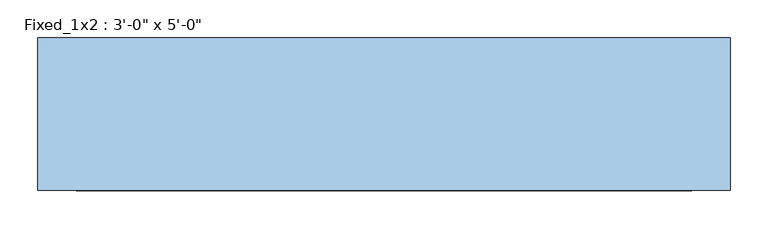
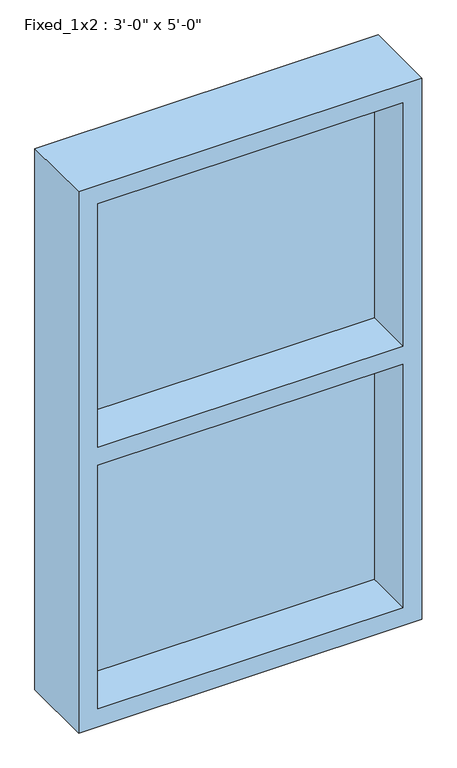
"""IFC4 building model written with IfcOpenShell, lengths in millimetres: window geometry."""

import ifcopenshell
import ifcopenshell.guid

model = None  # the IFC model being written
_history = None  # IfcOwnerHistory: only IFC2X3 demands one
_inside = {}  # id of a spatial element -> (the spatial element, [elements in it])
_under = {}  # id of a project, library or spatial element -> (it, [spatial elements below it])
_declared = {}  # id of a project -> (the project, [libraries it declares])
_typed = {}  # id of a type object -> (the type object, [elements of that type])
_made_of = {}  # id of a material, layer set ... -> (it, [elements and type objects made of it])


def new_model(schema):
    """Start an empty IFC model of exactly this schema.

    Asked for "IFC4X3", IfcOpenShell would pick the latest addendum, in which some entities
    have other attributes; the version numbers below select the first issue.
    IFC2X3 requires an IfcOwnerHistory on every rooted entity: one is made here for all.
    """
    global model, _history
    if schema == "IFC4X3":
        model = ifcopenshell.file(schema_version=(4, 3, 0, 0))
    else:
        model = ifcopenshell.file(schema=schema)
    _inside.clear()
    _under.clear()
    _declared.clear()
    _typed.clear()
    _made_of.clear()
    _history = None
    if model.schema == "IFC2X3":
        org = make("IfcOrganization", Name="unknown")
        user = make(
            "IfcPersonAndOrganization",
            ThePerson=make("IfcPerson", FamilyName="unknown"),
            TheOrganization=org,
        )
        app = make(
            "IfcApplication",
            ApplicationDeveloper=org,
            Version="unknown",
            ApplicationFullName="unknown",
            ApplicationIdentifier="unknown",
        )
        _history = make(
            "IfcOwnerHistory",
            OwningUser=user,
            OwningApplication=app,
            ChangeAction="ADDED",
            CreationDate=0,
        )
    return model


def make(cls, **values):
    """One entity of the class cls with the attributes given. An attribute that is None is left unset."""
    return model.create_entity(
        cls, **{name: value for name, value in values.items() if value is not None}
    )


def rooted(cls, **values):
    """An entity with a GlobalId (a new one), such as an element, a storey or a relation."""
    return make(cls, GlobalId=ifcopenshell.guid.new(), OwnerHistory=_history, **values)


def si_unit(unit_type, name, prefix=None):
    """IfcSIUnit, for example si_unit("LENGTHUNIT", "METRE", prefix="MILLI")."""
    return make("IfcSIUnit", UnitType=unit_type, Prefix=prefix, Name=name)


def assignment(units):
    """IfcUnitAssignment: the units of a project."""
    return None if units is None else make("IfcUnitAssignment", Units=units)


def point(xyz):
    """IfcCartesianPoint."""
    return None if xyz is None else make("IfcCartesianPoint", Coordinates=xyz)


def direction(xyz):
    """IfcDirection."""
    return None if xyz is None else make("IfcDirection", DirectionRatios=xyz)


def frame(location, z_axis=None, x_axis=None):
    """IfcAxis2Placement3D, a coordinate frame: its origin and axes. An axis left out is left unset."""
    return make(
        "IfcAxis2Placement3D",
        Location=point(location),
        Axis=direction(z_axis),
        RefDirection=direction(x_axis),
    )


def origin():
    """The frame at (0, 0, 0) with its axes left unset."""
    return frame((0.0, 0.0, 0.0))


def place(relative_to, where):
    """IfcLocalPlacement: puts the frame where relative to a parent placement (None: the world)."""
    return make(
        "IfcLocalPlacement", PlacementRelTo=relative_to, RelativePlacement=where
    )


def context(
    kind, dimensions, precision=None, world=None, true_north=None, identifier=None
):
    """IfcGeometricRepresentationContext, for example the 3D "Model" context."""
    return make(
        "IfcGeometricRepresentationContext",
        ContextIdentifier=identifier,
        ContextType=kind,
        CoordinateSpaceDimension=dimensions,
        Precision=precision,
        WorldCoordinateSystem=world,
        TrueNorth=true_north,
    )


def project(units=None, contexts=None):
    """IfcProject with its units and contexts."""
    return rooted(
        "IfcProject",
        Name="project",
        RepresentationContexts=contexts,
        UnitsInContext=assignment(units),
    )


def spatial(cls, under=None, at=None, **own):
    """A site, building, storey or space (cls), placed at a placement, below another one or the project."""
    s = rooted(cls, ObjectPlacement=at, **own)
    if under is not None:
        _under.setdefault(under.id(), (under, []))[1].append(s)
    return s


def polyline(points):
    """IfcPolyline through the points."""
    return make("IfcPolyline", Points=[point(p) for p in points])


def outline(outer, holes=None, kind="AREA"):
    """IfcArbitraryClosedProfileDef: a profile drawn as a closed curve; with holes, ...WithVoids."""
    if holes is None:
        return make("IfcArbitraryClosedProfileDef", ProfileType=kind, OuterCurve=outer)
    return make(
        "IfcArbitraryProfileDefWithVoids",
        ProfileType=kind,
        OuterCurve=outer,
        InnerCurves=holes,
    )


def extrude(swept, where, along, depth):
    """IfcExtrudedAreaSolid: the profile swept, set in the frame where, extruded along a direction by depth."""
    return make(
        "IfcExtrudedAreaSolid",
        SweptArea=swept,
        Position=where,
        ExtrudedDirection=direction(along),
        Depth=depth,
    )


def shape(context_of_items, identifier, shape_type, items):
    """IfcShapeRepresentation: the items that make up one representation, for example the "Body"."""
    return make(
        "IfcShapeRepresentation",
        ContextOfItems=context_of_items,
        RepresentationIdentifier=identifier,
        RepresentationType=shape_type,
        Items=items,
    )


def source(mapping_origin, context_of_items, identifier, shape_type, items):
    """IfcRepresentationMap: a shape defined once, which mapped items show again and again."""
    return make(
        "IfcRepresentationMap",
        MappingOrigin=mapping_origin,
        MappedRepresentation=shape(context_of_items, identifier, shape_type, items),
    )


def transform(
    local_origin,
    x_axis=None,
    y_axis=None,
    z_axis=None,
    scale=None,
    scale2=None,
    scale3=None,
    uniform=True,
):
    """IfcCartesianTransformationOperator3D, or its non-uniform kind. x_axis, y_axis, z_axis: its Axis1, 2, 3."""
    if uniform:
        return make(
            "IfcCartesianTransformationOperator3D",
            Axis1=direction(x_axis),
            Axis2=direction(y_axis),
            LocalOrigin=point(local_origin),
            Scale=scale,
            Axis3=direction(z_axis),
        )
    return make(
        "IfcCartesianTransformationOperator3DnonUniform",
        Axis1=direction(x_axis),
        Axis2=direction(y_axis),
        LocalOrigin=point(local_origin),
        Scale=scale,
        Axis3=direction(z_axis),
        Scale2=scale2,
        Scale3=scale3,
    )


def mapped(mapping_source, mapping_target):
    """IfcMappedItem: shows the shape of a source again, moved by a transform."""
    return make(
        "IfcMappedItem", MappingSource=mapping_source, MappingTarget=mapping_target
    )


def made_of(thing, what):
    """Note that an element or type object is made of a material, layer set ...; save() writes the relation."""
    if what is not None:
        _made_of.setdefault(what.id(), (what, []))[1].append(thing)
    return thing


def element(
    cls,
    number,
    at=None,
    inside=None,
    cuts=None,
    type_object=None,
    material=None,
    context=None,
    identifier="Body",
    shape_type=None,
    held_by="IfcProductDefinitionShape",
    body=None,
    shapes=None,
    **own,
):
    """One element of the class cls, such as IfcWall. Its Tag is "e" and its number.

    at: its placement. inside: the storey or other place that contains it. cuts: it is an
    opening in that element (IfcRelVoidsElement). A single representation is given by context,
    identifier, shape_type and body (its items); several are given by shapes. held_by: the class
    of the entity that holds the representations. save() writes the other relations.
    """
    e = rooted(cls, Tag="e%d" % number, ObjectPlacement=at, **own)
    if body is not None:
        shapes = [shape(context, identifier, shape_type, body)]
    if shapes is not None:
        e.Representation = make(held_by, Representations=shapes)
    if inside is not None:
        _inside.setdefault(inside.id(), (inside, []))[1].append(e)
    if cuts is not None:
        rooted(
            "IfcRelVoidsElement", RelatingBuildingElement=cuts, RelatedOpeningElement=e
        )
    if type_object is not None:
        _typed.setdefault(type_object.id(), (type_object, []))[1].append(e)
    return made_of(e, material)


def aggregate(whole, parts):
    """IfcRelAggregates: a whole, such as a stair, and the parts it consists of."""
    return rooted("IfcRelAggregates", RelatingObject=whole, RelatedObjects=parts)


def save(model, path):
    """Write the relations noted so far, then the file.

    IfcRelAggregates (storeys below a building ...), IfcRelContainedInSpatialStructure (elements
    in a storey), IfcRelDefinesByType, IfcRelAssociatesMaterial and IfcRelDeclares: one each for
    every whole, place, type object, material and project.
    """
    for whole, parts in _under.values():
        aggregate(whole, parts)
    for where, things in _inside.values():
        rooted(
            "IfcRelContainedInSpatialStructure",
            RelatedElements=things,
            RelatingStructure=where,
        )
    for kind, things in _typed.values():
        rooted("IfcRelDefinesByType", RelatedObjects=things, RelatingType=kind)
    for what, things in _made_of.values():
        rooted("IfcRelAssociatesMaterial", RelatedObjects=things, RelatingMaterial=what)
    for by, libraries in _declared.values():
        rooted("IfcRelDeclares", RelatingContext=by, RelatedDefinitions=libraries)
    model.write(path)


def window_53f5c2a4(model_context):
    return source(origin(), model_context, "Body", "SweptSolid", [
        extrude(outline(polyline([(-1320.8, 82.9137746), (-508.0, 82.9137746), (-508.0, 57.5137746), (-1320.8, 57.5137746), (-1320.8, 82.9137746)])), frame((0.0, 0.0, 1845.6367551), z_axis=(0.0, 0.0, 1.0), x_axis=(1.0, 0.0, 0.0)), (0.0, 0.0, 1.0), 685.8),
        extrude(outline(polyline([(-1320.8, 82.9137746), (-508.0, 82.9137746), (-508.0, 57.5137746), (-1320.8, 57.5137746), (-1320.8, 82.9137746)])), frame((0.0, 0.0, 1109.0367551), z_axis=(0.0, 0.0, 1.0), x_axis=(1.0, 0.0, 0.0)), (0.0, 0.0, 1.0), 685.8),
        extrude(outline(polyline([(2582.2367551, -1371.6), (1058.2367551, -1371.6), (1058.2367551, -457.2), (2582.2367551, -457.2), (2582.2367551, -1371.6)]), holes=[polyline([(2531.4367551, -1320.8), (2531.4367551, -508.0), (1845.6367551, -508.0), (1845.6367551, -1320.8), (2531.4367551, -1320.8)]), polyline([(1794.8367551, -1320.8), (1794.8367551, -508.0), (1109.0367551, -508.0), (1109.0367551, -1320.8), (1794.8367551, -1320.8)])]), frame((0.0, -74.2487254, 0.0), z_axis=(0.0, 1.0, 0.0), x_axis=(0.0, 0.0, 1.0)), (0.0, 0.0, 1.0), 201.6125),
    ])


if __name__ == "__main__":
    model = new_model("IFC4")
    model_context = context("Model", 3, world=origin())
    ifc_project = project(units=[si_unit("LENGTHUNIT", "METRE", prefix="MILLI")], contexts=[model_context])
    site = spatial("IfcSite", under=ifc_project)
    building = spatial("IfcBuilding", under=site)
    placement = place(None, origin())
    window_shape = window_53f5c2a4(model_context)
    element("IfcWindow", 1, ObjectType="Fixed_1x2 : 3'-0\" x 5'-0\"", at=placement, inside=building, context=model_context, shape_type="MappedRepresentation", body=[
        mapped(window_shape, transform((0.0, 0.0, 0.0), x_axis=(1.0, 0.0, 0.0), y_axis=(0.0, 1.0, 0.0), z_axis=(0.0, 0.0, 1.0))),
    ])
    save(model, "model.ifc")
